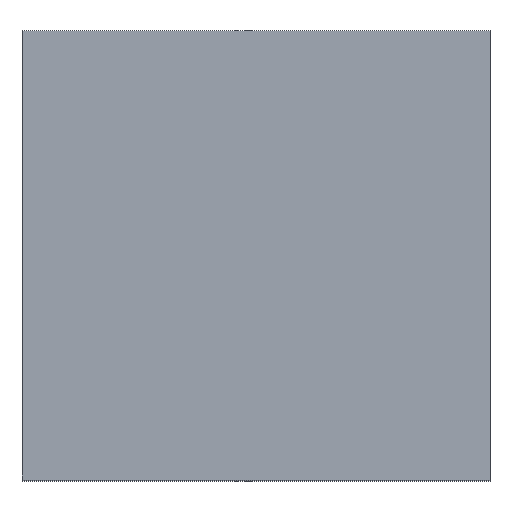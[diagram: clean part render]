
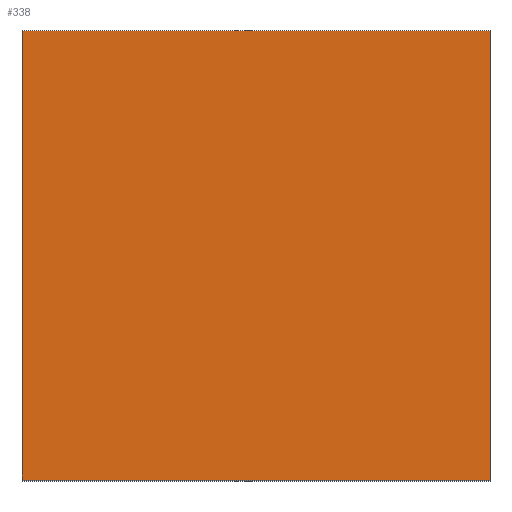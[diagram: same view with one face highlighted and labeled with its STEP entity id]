
A CAD part, top view. The second image highlights one B-rep face of the part: STEP entity #338.
In plain terms, the highlighted planar face has unit normal (0, 0, 1).
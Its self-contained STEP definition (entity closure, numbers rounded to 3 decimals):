
#24 = VERTEX_POINT('',#25);
#25 = CARTESIAN_POINT('',(7.5,-26.775,13.7));
#32 = PLANE('',#33);
#33 = AXIS2_PLACEMENT_3D('',#34,#35,#36);
#34 = CARTESIAN_POINT('',(7.5,-26.775,5.9));
#35 = DIRECTION('',(1.,0.,0.));
#36 = DIRECTION('',(0.,0.,1.));
#44 = PLANE('',#45);
#45 = AXIS2_PLACEMENT_3D('',#46,#47,#48);
#46 = CARTESIAN_POINT('',(7.5,-26.775,5.9));
#47 = DIRECTION('',(0.,1.,0.));
#48 = DIRECTION('',(0.,0.,1.));
#85 = VERTEX_POINT('',#86);
#86 = CARTESIAN_POINT('',(7.5,-21.975,13.7));
#100 = PLANE('',#101);
#101 = AXIS2_PLACEMENT_3D('',#102,#103,#104);
#102 = CARTESIAN_POINT('',(7.5,-21.975,5.9));
#103 = DIRECTION('',(0.,1.,0.));
#104 = DIRECTION('',(0.,0.,1.));
#112 = EDGE_CURVE('',#24,#85,#113,.T.);
#113 = SURFACE_CURVE('',#114,(#118,#125),.PCURVE_S1.);
#114 = LINE('',#115,#116);
#115 = CARTESIAN_POINT('',(7.5,-26.775,13.7));
#116 = VECTOR('',#117,1.);
#117 = DIRECTION('',(0.,1.,0.));
#118 = PCURVE('',#32,#119);
#119 = DEFINITIONAL_REPRESENTATION('',(#120),#124);
#120 = LINE('',#121,#122);
#121 = CARTESIAN_POINT('',(7.8,0.));
#122 = VECTOR('',#123,1.);
#123 = DIRECTION('',(0.,-1.));
#124 = ( GEOMETRIC_REPRESENTATION_CONTEXT(2) 
PARAMETRIC_REPRESENTATION_CONTEXT() REPRESENTATION_CONTEXT('2D SPACE',''
  ) );
#125 = PCURVE('',#126,#131);
#126 = PLANE('',#127);
#127 = AXIS2_PLACEMENT_3D('',#128,#129,#130);
#128 = CARTESIAN_POINT('',(7.5,-26.775,13.7));
#129 = DIRECTION('',(0.,0.,1.));
#130 = DIRECTION('',(1.,0.,0.));
#131 = DEFINITIONAL_REPRESENTATION('',(#132),#136);
#132 = LINE('',#133,#134);
#133 = CARTESIAN_POINT('',(0.,0.));
#134 = VECTOR('',#135,1.);
#135 = DIRECTION('',(0.,1.));
#136 = ( GEOMETRIC_REPRESENTATION_CONTEXT(2) 
PARAMETRIC_REPRESENTATION_CONTEXT() REPRESENTATION_CONTEXT('2D SPACE',''
  ) );
#144 = VERTEX_POINT('',#145);
#145 = CARTESIAN_POINT('',(12.5,-26.775,13.7));
#152 = PLANE('',#153);
#153 = AXIS2_PLACEMENT_3D('',#154,#155,#156);
#154 = CARTESIAN_POINT('',(12.5,-26.775,5.9));
#155 = DIRECTION('',(1.,0.,0.));
#156 = DIRECTION('',(0.,0.,1.));
#195 = VERTEX_POINT('',#196);
#196 = CARTESIAN_POINT('',(12.5,-21.975,13.7));
#217 = EDGE_CURVE('',#144,#195,#218,.T.);
#218 = SURFACE_CURVE('',#219,(#223,#230),.PCURVE_S1.);
#219 = LINE('',#220,#221);
#220 = CARTESIAN_POINT('',(12.5,-26.775,13.7));
#221 = VECTOR('',#222,1.);
#222 = DIRECTION('',(0.,1.,0.));
#223 = PCURVE('',#152,#224);
#224 = DEFINITIONAL_REPRESENTATION('',(#225),#229);
#225 = LINE('',#226,#227);
#226 = CARTESIAN_POINT('',(7.8,0.));
#227 = VECTOR('',#228,1.);
#228 = DIRECTION('',(0.,-1.));
#229 = ( GEOMETRIC_REPRESENTATION_CONTEXT(2) 
PARAMETRIC_REPRESENTATION_CONTEXT() REPRESENTATION_CONTEXT('2D SPACE',''
  ) );
#230 = PCURVE('',#126,#231);
#231 = DEFINITIONAL_REPRESENTATION('',(#232),#236);
#232 = LINE('',#233,#234);
#233 = CARTESIAN_POINT('',(5.,0.));
#234 = VECTOR('',#235,1.);
#235 = DIRECTION('',(0.,1.));
#236 = ( GEOMETRIC_REPRESENTATION_CONTEXT(2) 
PARAMETRIC_REPRESENTATION_CONTEXT() REPRESENTATION_CONTEXT('2D SPACE',''
  ) );
#263 = EDGE_CURVE('',#24,#144,#264,.T.);
#264 = SURFACE_CURVE('',#265,(#269,#276),.PCURVE_S1.);
#265 = LINE('',#266,#267);
#266 = CARTESIAN_POINT('',(7.5,-26.775,13.7));
#267 = VECTOR('',#268,1.);
#268 = DIRECTION('',(1.,0.,0.));
#269 = PCURVE('',#44,#270);
#270 = DEFINITIONAL_REPRESENTATION('',(#271),#275);
#271 = LINE('',#272,#273);
#272 = CARTESIAN_POINT('',(7.8,0.));
#273 = VECTOR('',#274,1.);
#274 = DIRECTION('',(0.,1.));
#275 = ( GEOMETRIC_REPRESENTATION_CONTEXT(2) 
PARAMETRIC_REPRESENTATION_CONTEXT() REPRESENTATION_CONTEXT('2D SPACE',''
  ) );
#276 = PCURVE('',#126,#277);
#277 = DEFINITIONAL_REPRESENTATION('',(#278),#282);
#278 = LINE('',#279,#280);
#279 = CARTESIAN_POINT('',(0.,0.));
#280 = VECTOR('',#281,1.);
#281 = DIRECTION('',(1.,0.));
#282 = ( GEOMETRIC_REPRESENTATION_CONTEXT(2) 
PARAMETRIC_REPRESENTATION_CONTEXT() REPRESENTATION_CONTEXT('2D SPACE',''
  ) );
#310 = EDGE_CURVE('',#85,#195,#311,.T.);
#311 = SURFACE_CURVE('',#312,(#316,#323),.PCURVE_S1.);
#312 = LINE('',#313,#314);
#313 = CARTESIAN_POINT('',(7.5,-21.975,13.7));
#314 = VECTOR('',#315,1.);
#315 = DIRECTION('',(1.,0.,0.));
#316 = PCURVE('',#100,#317);
#317 = DEFINITIONAL_REPRESENTATION('',(#318),#322);
#318 = LINE('',#319,#320);
#319 = CARTESIAN_POINT('',(7.8,0.));
#320 = VECTOR('',#321,1.);
#321 = DIRECTION('',(0.,1.));
#322 = ( GEOMETRIC_REPRESENTATION_CONTEXT(2) 
PARAMETRIC_REPRESENTATION_CONTEXT() REPRESENTATION_CONTEXT('2D SPACE',''
  ) );
#323 = PCURVE('',#126,#324);
#324 = DEFINITIONAL_REPRESENTATION('',(#325),#329);
#325 = LINE('',#326,#327);
#326 = CARTESIAN_POINT('',(0.,4.8));
#327 = VECTOR('',#328,1.);
#328 = DIRECTION('',(1.,0.));
#329 = ( GEOMETRIC_REPRESENTATION_CONTEXT(2) 
PARAMETRIC_REPRESENTATION_CONTEXT() REPRESENTATION_CONTEXT('2D SPACE',''
  ) );
#338 = ADVANCED_FACE('',(#339),#126,.T.);
#339 = FACE_BOUND('',#340,.T.);
#340 = EDGE_LOOP('',(#341,#342,#343,#344));
#341 = ORIENTED_EDGE('',*,*,#112,.F.);
#342 = ORIENTED_EDGE('',*,*,#263,.T.);
#343 = ORIENTED_EDGE('',*,*,#217,.T.);
#344 = ORIENTED_EDGE('',*,*,#310,.F.);
